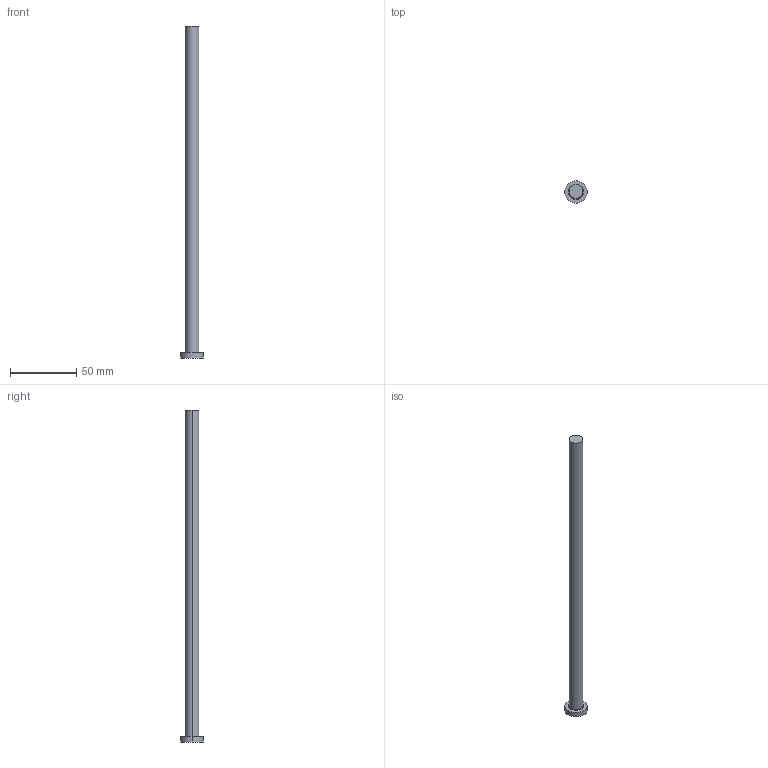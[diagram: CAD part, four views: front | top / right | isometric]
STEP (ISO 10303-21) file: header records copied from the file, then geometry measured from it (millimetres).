
FILE_DESCRIPTION (( 'STEP AP214' ), '1' );
FILE_NAME ('EPH10.5-250.step', '2024-04-11T21:17:19', ( '' ), ( '' ), 'SwSTEP 2.0', 'SolidWorks 2017', '' );
FILE_SCHEMA (( 'AUTOMOTIVE_DESIGN' ));
Length unit declared in the file: millimetre
Products named in the file (1): EPH10.5-250
Bounding box: 17 x 17 x 250 mm (x, y, z)
Volume: 22210.9 mm3; surface area: 8775.4 mm2
Topology: 1 solids, 1 shells, 9 faces, 16 edges, 10 vertices
Faces by surface type: cylinder 4, plane 3, torus 2
Entity records: 260 total; most frequent: DIRECTION 48, CARTESIAN_POINT 36, ORIENTED_EDGE 32, AXIS2_PLACEMENT_3D 22, EDGE_CURVE 16, CIRCLE 12, EDGE_LOOP 10, VERTEX_POINT 10
